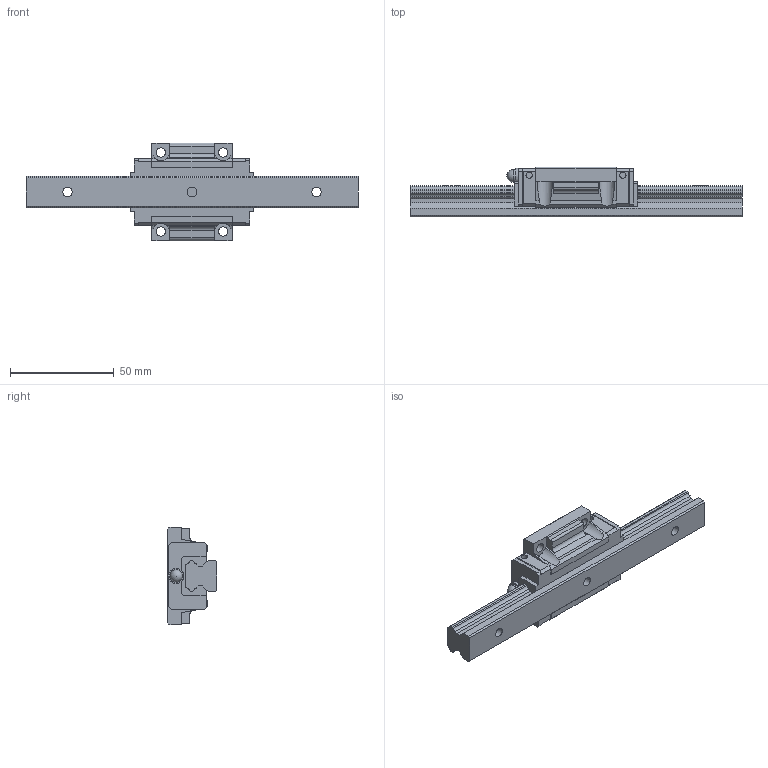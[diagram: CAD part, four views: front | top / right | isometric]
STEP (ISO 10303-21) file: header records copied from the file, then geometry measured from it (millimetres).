
FILE_DESCRIPTION(/* description */ ('STEP AP203'),/* implementation_level */ '2;1');
FILE_NAME(/* name */ 'HSR15M1B1SS-160L_G20_0_PB1021B_50-2_0_0_0',/* time_stamp */ '2024-05-23T06:14:10+02:00',/* author */ ('License CC BY-ND 4.0'),/* organization */ ('CADENAS'),/* preprocessor_version */ 'ST-DEVELOPER v19.3',/* originating_system */ 'PARTsolutions',/* authorisation */ ' ');
FILE_SCHEMA (('CONFIG_CONTROL_DESIGN','FEATURE_BASED_PROCESS_PLANNING','TECHNICAL_DATA_PACKAGING'));
Length unit declared in the file: millimetre
Products named in the file (4): HSR15M1B1SS-160L_G20_0_PB1021B_50-2_0_0_0; HSR15M1B116020 Rail; HSR15M1BSSPB1021B Slider; hsr_ftht_PB1021B_grease_nipple_joint
Assembly tree (3 placements, depth 2):
  HSR15M1B1SS-160L_G20_0_PB1021B_50-2_0_0_0
    HSR15M1B116020 Rail
    HSR15M1BSSPB1021B Slider
    hsr_ftht_PB1021B_grease_nipple_joint
Bounding box: 160 x 24 x 47 mm (x, y, z)
Volume: 61460.1 mm3; surface area: 21374.2 mm2
Topology: 3 solids, 3 shells, 188 faces, 514 edges, 342 vertices
Faces by surface type: plane 150, cylinder 37, sphere 1
Full cylindrical faces by diameter (mm): 3 x4, 4 x3, 4.5 x7, 6 x1, 7.5 x4
Entity records: 5897 total; most frequent: CARTESIAN_POINT 1020, ORIENTED_EDGE 980, DIRECTION 956, EDGE_CURVE 490, LINE 408, VECTOR 408, VERTEX_POINT 338, AXIS2_PLACEMENT_3D 274
